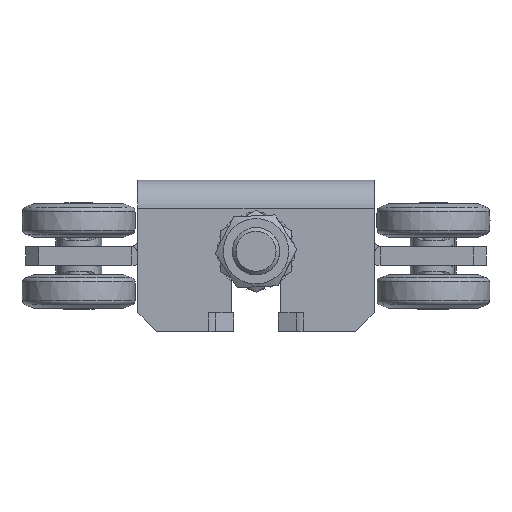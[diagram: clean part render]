
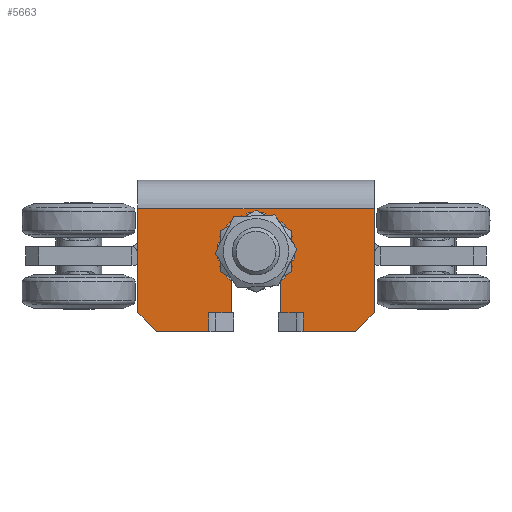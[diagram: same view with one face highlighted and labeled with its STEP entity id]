
A CAD part, front view. The second image highlights one B-rep face of the part: STEP entity #5663.
In plain terms, the highlighted planar face has unit normal (0, -1, 0) as drawn and (0, 0, -1) by its records, which use the part's own axes.
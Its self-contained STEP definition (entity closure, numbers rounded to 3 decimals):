
#454=FACE_OUTER_BOUND('',#804,.T.);
#804=EDGE_LOOP('',(#4136,#4137,#4138,#4139,#4140,#4141,#4142,#4143,#4144,
#4145,#4146,#4147,#4148,#4149,#4150,#4151,#4152,#4153));
#1195=LINE('',#8626,#1687);
#1214=LINE('',#8666,#1706);
#1221=LINE('',#8686,#1713);
#1224=LINE('',#8692,#1716);
#1225=LINE('',#8695,#1717);
#1227=LINE('',#8700,#1719);
#1230=LINE('',#8704,#1722);
#1232=LINE('',#8708,#1724);
#1233=LINE('',#8711,#1725);
#1235=LINE('',#8715,#1727);
#1237=LINE('',#8719,#1729);
#1269=LINE('',#8804,#1761);
#1270=LINE('',#8808,#1762);
#1272=LINE('',#8812,#1764);
#1273=LINE('',#8814,#1765);
#1274=LINE('',#8816,#1766);
#1275=LINE('',#8817,#1767);
#1687=VECTOR('',#6842,8.);
#1706=VECTOR('',#6869,22.01);
#1713=VECTOR('',#6890,8.);
#1716=VECTOR('',#6897,22.01);
#1717=VECTOR('',#6900,0.01);
#1719=VECTOR('',#6904,9.5);
#1722=VECTOR('',#6909,0.01);
#1724=VECTOR('',#6913,0.01);
#1725=VECTOR('',#6916,0.01);
#1727=VECTOR('',#6920,9.5);
#1729=VECTOR('',#6924,25.99);
#1761=VECTOR('',#7018,100.);
#1762=VECTOR('',#7023,44.);
#1764=VECTOR('',#7027,25.99);
#1765=VECTOR('',#7030,11.314);
#1766=VECTOR('',#7031,44.);
#1767=VECTOR('',#7032,11.314);
#2133=CIRCLE('',#6065,10.5);
#2444=VERTEX_POINT('',#8608);
#2447=VERTEX_POINT('',#8616);
#2467=VERTEX_POINT('',#8665);
#2469=VERTEX_POINT('',#8670);
#2471=VERTEX_POINT('',#8677);
#2474=VERTEX_POINT('',#8690);
#2475=VERTEX_POINT('',#8694);
#2476=VERTEX_POINT('',#8698);
#2477=VERTEX_POINT('',#8699);
#2478=VERTEX_POINT('',#8706);
#2479=VERTEX_POINT('',#8710);
#2480=VERTEX_POINT('',#8714);
#2481=VERTEX_POINT('',#8718);
#2502=VERTEX_POINT('',#8794);
#2503=VERTEX_POINT('',#8799);
#2504=VERTEX_POINT('',#8807);
#2505=VERTEX_POINT('',#8811);
#2506=VERTEX_POINT('',#8815);
#3037=EDGE_CURVE('',#2447,#2444,#1195,.T.);
#3057=EDGE_CURVE('',#2447,#2467,#1214,.T.);
#3068=EDGE_CURVE('',#2471,#2469,#1221,.T.);
#3071=EDGE_CURVE('',#2474,#2469,#1224,.T.);
#3072=EDGE_CURVE('',#2475,#2471,#1225,.T.);
#3074=EDGE_CURVE('',#2476,#2477,#1227,.T.);
#3077=EDGE_CURVE('',#2477,#2475,#1230,.T.);
#3079=EDGE_CURVE('',#2444,#2478,#1232,.T.);
#3080=EDGE_CURVE('',#2478,#2479,#1233,.T.);
#3082=EDGE_CURVE('',#2479,#2480,#1235,.T.);
#3084=EDGE_CURVE('',#2476,#2481,#1237,.T.);
#3128=EDGE_CURVE('',#2503,#2502,#1269,.T.);
#3129=EDGE_CURVE('',#2503,#2504,#1270,.T.);
#3131=EDGE_CURVE('',#2505,#2480,#1272,.T.);
#3132=EDGE_CURVE('',#2481,#2505,#2133,.T.);
#3133=EDGE_CURVE('',#2504,#2474,#1273,.T.);
#3134=EDGE_CURVE('',#2506,#2502,#1274,.T.);
#3135=EDGE_CURVE('',#2467,#2506,#1275,.T.);
#4136=ORIENTED_EDGE('',*,*,#3037,.T.);
#4137=ORIENTED_EDGE('',*,*,#3079,.T.);
#4138=ORIENTED_EDGE('',*,*,#3080,.T.);
#4139=ORIENTED_EDGE('',*,*,#3082,.T.);
#4140=ORIENTED_EDGE('',*,*,#3131,.F.);
#4141=ORIENTED_EDGE('',*,*,#3132,.F.);
#4142=ORIENTED_EDGE('',*,*,#3084,.F.);
#4143=ORIENTED_EDGE('',*,*,#3074,.T.);
#4144=ORIENTED_EDGE('',*,*,#3077,.T.);
#4145=ORIENTED_EDGE('',*,*,#3072,.T.);
#4146=ORIENTED_EDGE('',*,*,#3068,.T.);
#4147=ORIENTED_EDGE('',*,*,#3071,.F.);
#4148=ORIENTED_EDGE('',*,*,#3133,.F.);
#4149=ORIENTED_EDGE('',*,*,#3129,.F.);
#4150=ORIENTED_EDGE('',*,*,#3128,.T.);
#4151=ORIENTED_EDGE('',*,*,#3134,.F.);
#4152=ORIENTED_EDGE('',*,*,#3135,.F.);
#4153=ORIENTED_EDGE('',*,*,#3057,.F.);
#5453=PLANE('',#6064);
#5663=ADVANCED_FACE('',(#454),#5453,.F.);
#6064=AXIS2_PLACEMENT_3D('',#8810,#7025,#7026);
#6065=AXIS2_PLACEMENT_3D('',#8813,#7028,#7029);
#6842=DIRECTION('',(1.,0.,0.));
#6869=DIRECTION('',(0.,-1.,0.));
#6890=DIRECTION('',(-1.,0.,0.));
#6897=DIRECTION('',(0.,-1.,0.));
#6900=DIRECTION('',(0.,-1.,0.));
#6904=DIRECTION('',(0.,1.,0.));
#6909=DIRECTION('',(-1.,0.,0.));
#6913=DIRECTION('',(0.,-1.,0.));
#6916=DIRECTION('',(1.,0.,0.));
#6920=DIRECTION('',(0.,1.,0.));
#6924=DIRECTION('',(1.,0.,0.));
#7018=DIRECTION('',(0.,-1.,0.));
#7023=DIRECTION('',(-1.,0.,0.));
#7025=DIRECTION('center_axis',(0.,0.,1.));
#7026=DIRECTION('ref_axis',(1.,0.,0.));
#7027=DIRECTION('',(-1.,0.,0.));
#7028=DIRECTION('center_axis',(0.,0.,-1.));
#7029=DIRECTION('ref_axis',(0.,-1.,0.));
#7030=DIRECTION('',(-0.707,-0.707,0.));
#7031=DIRECTION('',(1.,0.,0.));
#7032=DIRECTION('',(0.707,-0.707,0.));
#8608=CARTESIAN_POINT('',(-26.,-19.99,-8.));
#8616=CARTESIAN_POINT('',(-34.,-19.99,-8.));
#8626=CARTESIAN_POINT('',(1.148,-19.99,-8.));
#8665=CARTESIAN_POINT('',(-34.,-42.,-8.));
#8666=CARTESIAN_POINT('',(-34.,-42.,-8.));
#8670=CARTESIAN_POINT('',(-34.,19.99,-8.));
#8677=CARTESIAN_POINT('',(-26.,19.99,-8.));
#8686=CARTESIAN_POINT('',(5.148,19.99,-8.));
#8690=CARTESIAN_POINT('',(-34.,42.,-8.));
#8692=CARTESIAN_POINT('',(-34.,10.5,-8.));
#8694=CARTESIAN_POINT('',(-26.,20.,-8.));
#8695=CARTESIAN_POINT('',(-26.,10.,-8.));
#8698=CARTESIAN_POINT('',(-25.99,10.5,-8.));
#8699=CARTESIAN_POINT('',(-25.99,20.,-8.));
#8700=CARTESIAN_POINT('',(-25.99,5.25,-8.));
#8704=CARTESIAN_POINT('',(5.153,20.,-8.));
#8706=CARTESIAN_POINT('',(-26.,-20.,-8.));
#8708=CARTESIAN_POINT('',(-26.,-5.25,-8.));
#8710=CARTESIAN_POINT('',(-25.99,-20.,-8.));
#8711=CARTESIAN_POINT('',(5.148,-20.,-8.));
#8714=CARTESIAN_POINT('',(-25.99,-10.5,-8.));
#8715=CARTESIAN_POINT('',(-25.99,-10.,-8.));
#8718=CARTESIAN_POINT('',(0.,10.5,-8.));
#8719=CARTESIAN_POINT('',(0.,10.5,-8.));
#8794=CARTESIAN_POINT('',(18.,-50.,-8.));
#8799=CARTESIAN_POINT('',(18.,50.,-8.));
#8804=CARTESIAN_POINT('',(18.,25.,-8.));
#8807=CARTESIAN_POINT('',(-26.,50.,-8.));
#8808=CARTESIAN_POINT('',(-26.,50.,-8.));
#8810=CARTESIAN_POINT('Origin',(36.295,0.,-8.));
#8811=CARTESIAN_POINT('',(0.,-10.5,-8.));
#8812=CARTESIAN_POINT('',(-34.,-10.5,-8.));
#8813=CARTESIAN_POINT('Origin',(0.,0.,-8.));
#8814=CARTESIAN_POINT('',(-34.,42.,-8.));
#8815=CARTESIAN_POINT('',(-26.,-50.,-8.));
#8816=CARTESIAN_POINT('',(81.,-50.,-8.));
#8817=CARTESIAN_POINT('',(-26.,-50.,-8.));
